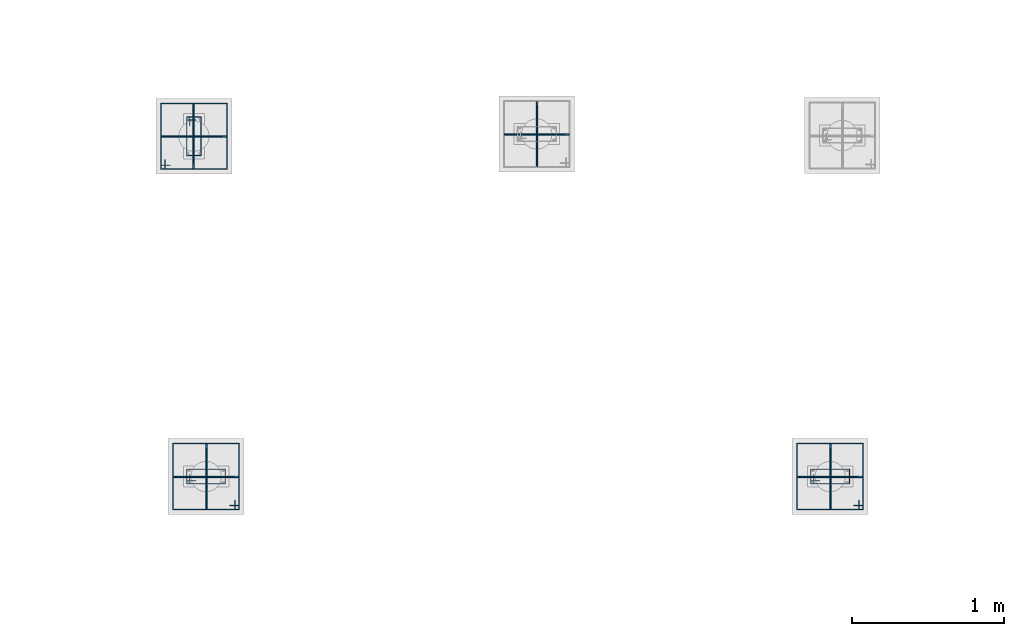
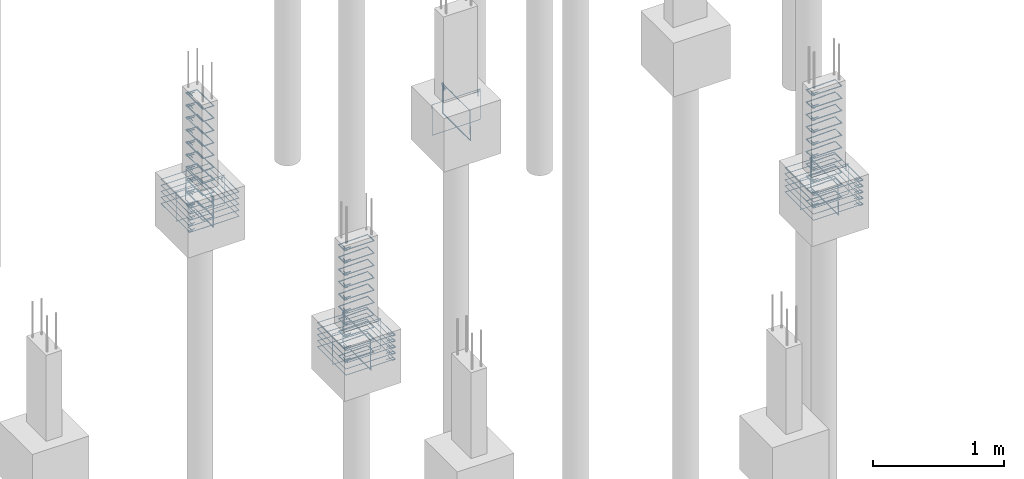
# One storey, part 81 of 119: 53 reinforcing bars.
"""IFC4 building model written with IfcOpenShell, lengths in centimetres."""

from ifc_helpers import new_model, entity, si_unit, derived_unit, frame, origin_with_axes, place, context, project, spatial, source, transform, mapped, element, save


model = new_model("IFC4")

# Units and contexts
model_context = context("Model", 3, precision=1e-05, world=origin_with_axes(), identifier="Body")
ifc_project = project(units=[si_unit("LENGTHUNIT", "METRE", prefix="CENTI"), si_unit("VOLUMEUNIT", "CUBIC_METRE"), si_unit("AREAUNIT", "SQUARE_METRE"), si_unit("POWERUNIT", "WATT"), si_unit("LUMINOUSFLUXUNIT", "LUMEN"), si_unit("ELECTRICCURRENTUNIT", "AMPERE"), si_unit("PRESSUREUNIT", "PASCAL", prefix="KILO"), si_unit("MASSUNIT", "GRAM", prefix="KILO"), si_unit("PLANEANGLEUNIT", "RADIAN"), derived_unit("VOLUMETRICFLOWRATEUNIT", [(si_unit("LENGTHUNIT", "METRE"), 3), (si_unit("TIMEUNIT", "SECOND"), -1)])], contexts=[model_context])

# Site, building, storey
site_placement = place(None, frame((-4000.0, 0.0, 0.0), z_axis=(0.0, 0.0, 1.0), x_axis=(1.0, 0.0, 0.0)))
site = spatial("IfcSite", under=ifc_project, at=site_placement, Name="PADRÃO")
building_placement = place(site_placement, frame((0.0, 0.0, -14.0)))
building = spatial("IfcBuilding", under=site, at=building_placement, Name="CRECHE PRÉ-ESCOLA TIPO 2")
storey_placement = place(building_placement, origin_with_axes())
storey = spatial("IfcBuildingStorey", under=building, at=storey_placement, Name="FUNDAÇÃO", CompositionType="ELEMENT", Elevation=-14.0)

# Reinforcing bars
shared_shape_1 = source(origin_with_axes(), model_context, "Body", "AdvancedSweptSolid", [
    entity("IfcSweptDiskSolid", entity("IfcCompositeCurve", [entity("IfcCompositeCurveSegment", "CONTINUOUS", True, entity("IfcPolyline", [entity("IfcCartesianPoint", [-15.12, -12.0, 0.0]), entity("IfcCartesianPoint", [-21.12, -12.0, 0.0])])), entity("IfcCompositeCurveSegment", "CONTINUOUS", True, entity("IfcPolyline", [entity("IfcCartesianPoint", [-21.12, -12.0, 0.0]), entity("IfcCartesianPoint", [-21.12, -14.0, 0.0])])), entity("IfcCompositeCurveSegment", "CONTINUOUS", True, entity("IfcPolyline", [entity("IfcCartesianPoint", [-21.12, -14.0, 0.0]), entity("IfcCartesianPoint", [21.12, -14.0, 0.0])])), entity("IfcCompositeCurveSegment", "CONTINUOUS", True, entity("IfcPolyline", [entity("IfcCartesianPoint", [21.12, -14.0, 0.0]), entity("IfcCartesianPoint", [21.12, 14.0, 0.5])])), entity("IfcCompositeCurveSegment", "CONTINUOUS", True, entity("IfcPolyline", [entity("IfcCartesianPoint", [21.12, 14.0, 0.5]), entity("IfcCartesianPoint", [-21.12, 14.0, 0.5])])), entity("IfcCompositeCurveSegment", "CONTINUOUS", True, entity("IfcPolyline", [entity("IfcCartesianPoint", [-21.12, 14.0, 0.5]), entity("IfcCartesianPoint", [-21.12, -14.0, 0.5])])), entity("IfcCompositeCurveSegment", "CONTINUOUS", True, entity("IfcPolyline", [entity("IfcCartesianPoint", [-21.12, -14.0, 0.5]), entity("IfcCartesianPoint", [-19.12, -14.0, 0.5])])), entity("IfcCompositeCurveSegment", "CONTINUOUS", True, entity("IfcPolyline", [entity("IfcCartesianPoint", [-19.12, -14.0, 0.5]), entity("IfcCartesianPoint", [-19.12, -8.0, 0.5])]))], False), 0.25),
])
reinforcing_bar_1_placement = place(storey_placement, frame((2749.74, 1253.51, -97.75), z_axis=(0.0, -1.0, 0.0), x_axis=(-1.0, 0.0, 0.0)))
element("IfcReinforcingBar", 1, at=reinforcing_bar_1_placement, inside=storey, Name="P111 - Blocos (estribos)", BarLength=0.0, CrossSectionArea=1.9634954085e-05, NominalDiameter=0.5, PredefinedType="MAIN", context=model_context, shape_type="MappedRepresentation", body=[
    mapped(shared_shape_1, transform((0.0, 0.0, 0.0), scale=1.0)),
])
shared_shape_2 = source(origin_with_axes(), model_context, "Body", "AdvancedSweptSolid", [
    entity("IfcSweptDiskSolid", entity("IfcCompositeCurve", [entity("IfcCompositeCurveSegment", "CONTINUOUS", True, entity("IfcPolyline", [entity("IfcCartesianPoint", [-15.12, -12.0, 0.0]), entity("IfcCartesianPoint", [-21.12, -12.0, 0.0])])), entity("IfcCompositeCurveSegment", "CONTINUOUS", True, entity("IfcPolyline", [entity("IfcCartesianPoint", [-21.12, -12.0, 0.0]), entity("IfcCartesianPoint", [-21.12, -14.0, 0.0])])), entity("IfcCompositeCurveSegment", "CONTINUOUS", True, entity("IfcPolyline", [entity("IfcCartesianPoint", [-21.12, -14.0, 0.0]), entity("IfcCartesianPoint", [21.12, -14.0, 0.0])])), entity("IfcCompositeCurveSegment", "CONTINUOUS", True, entity("IfcPolyline", [entity("IfcCartesianPoint", [21.12, -14.0, 0.0]), entity("IfcCartesianPoint", [21.12, 14.0, 0.5])])), entity("IfcCompositeCurveSegment", "CONTINUOUS", True, entity("IfcPolyline", [entity("IfcCartesianPoint", [21.12, 14.0, 0.5]), entity("IfcCartesianPoint", [-21.12, 14.0, 0.5])])), entity("IfcCompositeCurveSegment", "CONTINUOUS", True, entity("IfcPolyline", [entity("IfcCartesianPoint", [-21.12, 14.0, 0.5]), entity("IfcCartesianPoint", [-21.12, -14.0, 0.5])])), entity("IfcCompositeCurveSegment", "CONTINUOUS", True, entity("IfcPolyline", [entity("IfcCartesianPoint", [-21.12, -14.0, 0.5]), entity("IfcCartesianPoint", [-19.12, -14.0, 0.5])])), entity("IfcCompositeCurveSegment", "CONTINUOUS", True, entity("IfcPolyline", [entity("IfcCartesianPoint", [-19.12, -14.0, 0.5]), entity("IfcCartesianPoint", [-19.12, -8.0, 0.5])]))], False), 0.25),
])
reinforcing_bar_2_placement = place(storey_placement, frame((2749.74, 1253.51, -97.75), z_axis=(1.0, 0.0, 0.0), x_axis=(0.0, -1.0, 0.0)))
element("IfcReinforcingBar", 2, at=reinforcing_bar_2_placement, inside=storey, Name="P111 - Blocos (estribos)", BarLength=0.0, CrossSectionArea=1.9634954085e-05, NominalDiameter=0.5, PredefinedType="MAIN", context=model_context, shape_type="MappedRepresentation", body=[
    mapped(shared_shape_2, transform((0.0, 0.0, 0.0), scale=1.0)),
])
shared_shape_3 = source(origin_with_axes(), model_context, "Body", "AdvancedSweptSolid", [
    entity("IfcSweptDiskSolid", entity("IfcCompositeCurve", [entity("IfcCompositeCurveSegment", "CONTINUOUS", True, entity("IfcPolyline", [entity("IfcCartesianPoint", [4.25, 21.75, 0.0]), entity("IfcCartesianPoint", [4.25, 27.75, 0.0])])), entity("IfcCompositeCurveSegment", "CONTINUOUS", True, entity("IfcPolyline", [entity("IfcCartesianPoint", [4.25, 27.75, 0.0]), entity("IfcCartesianPoint", [2.25, 27.75, 0.0])])), entity("IfcCompositeCurveSegment", "CONTINUOUS", True, entity("IfcPolyline", [entity("IfcCartesianPoint", [2.25, 27.75, 0.0]), entity("IfcCartesianPoint", [2.25, 2.25, 0.0])])), entity("IfcCompositeCurveSegment", "CONTINUOUS", True, entity("IfcPolyline", [entity("IfcCartesianPoint", [2.25, 2.25, 0.0]), entity("IfcCartesianPoint", [11.75, 2.25, 0.0])])), entity("IfcCompositeCurveSegment", "CONTINUOUS", True, entity("IfcPolyline", [entity("IfcCartesianPoint", [11.75, 2.25, 0.0]), entity("IfcCartesianPoint", [11.75, 27.75, -0.5])])), entity("IfcCompositeCurveSegment", "CONTINUOUS", True, entity("IfcPolyline", [entity("IfcCartesianPoint", [11.75, 27.75, -0.5]), entity("IfcCartesianPoint", [2.25, 27.75, -0.5])])), entity("IfcCompositeCurveSegment", "CONTINUOUS", True, entity("IfcPolyline", [entity("IfcCartesianPoint", [2.25, 27.75, -0.5]), entity("IfcCartesianPoint", [2.25, 25.75, -0.5])])), entity("IfcCompositeCurveSegment", "CONTINUOUS", True, entity("IfcPolyline", [entity("IfcCartesianPoint", [2.25, 25.75, -0.5]), entity("IfcCartesianPoint", [8.25, 25.75, -0.5])]))], False), 0.25),
])
for number, where, z_axis, x_axis, name in (
    (3, (2516.5, 1237.08, -109.25), (0.0, 0.0, 1.0), (1.0, 0.0, 0.0), "P110 - Estribo"),
    (4, (2516.5, 1237.08, -40.25), (0.0, 0.0, 1.0), (1.0, 0.0, 0.0), "P110 - Estribo"),
    (5, (2516.5, 1237.08, -51.75), (0.0, 0.0, 1.0), (1.0, 0.0, 0.0), "P110 - Estribo"),
    (6, (2516.5, 1237.08, -63.25), (0.0, 0.0, 1.0), (1.0, 0.0, 0.0), "P110 - Estribo"),
    (7, (2516.5, 1237.08, -74.75), (0.0, 0.0, 1.0), (1.0, 0.0, 0.0), "P110 - Estribo"),
    (8, (2516.5, 1237.08, -86.25), (0.0, 0.0, 1.0), (1.0, 0.0, 0.0), "P110 - Estribo"),
    (9, (2516.5, 1237.08, -97.75), (0.0, 0.0, 1.0), (1.0, 0.0, 0.0), "P110 - Estribo"),
    (10, (2516.5, 1237.08, -28.75), (0.0, 0.0, 1.0), (1.0, 0.0, 0.0), "P110 - Estribo"),
    (11, (2516.5, 1237.08, -17.25), (0.0, 0.0, 1.0), (1.0, 0.0, 0.0), "P110 - Estribo"),
    (12, (2516.5, 1237.08, -5.75), (0.0, 0.0, 1.0), (1.0, 0.0, 0.0), "P110 - Estribo"),
):
    element("IfcReinforcingBar", number, at=place(storey_placement, frame(where, z_axis=z_axis, x_axis=x_axis)), inside=storey, Name=name, BarLength=0.0, CrossSectionArea=1.9634954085e-05, NominalDiameter=0.5, PredefinedType="MAIN", context=model_context, shape_type="MappedRepresentation", body=[
        mapped(shared_shape_3, transform((0.0, 0.0, 0.0), scale=1.0)),
    ])
shared_shape_4 = source(origin_with_axes(), model_context, "Body", "AdvancedSweptSolid", [
    entity("IfcSweptDiskSolid", entity("IfcCompositeCurve", [entity("IfcCompositeCurveSegment", "CONTINUOUS", True, entity("IfcPolyline", [entity("IfcCartesianPoint", [2508.075, 1232.915, 0.0]), entity("IfcCartesianPoint", [2501.815, 1232.915, 0.0])])), entity("IfcCompositeCurveSegment", "CONTINUOUS", True, entity("IfcPolyline", [entity("IfcCartesianPoint", [2501.815, 1232.915, 0.0]), entity("IfcCartesianPoint", [2501.815, 1230.395, 0.0])])), entity("IfcCompositeCurveSegment", "CONTINUOUS", True, entity("IfcPolyline", [entity("IfcCartesianPoint", [2501.815, 1230.395, 0.0]), entity("IfcCartesianPoint", [2545.185, 1230.395, 0.0])])), entity("IfcCompositeCurveSegment", "CONTINUOUS", True, entity("IfcPolyline", [entity("IfcCartesianPoint", [2545.185, 1230.395, 0.0]), entity("IfcCartesianPoint", [2545.185, 1273.765, 0.63])])), entity("IfcCompositeCurveSegment", "CONTINUOUS", True, entity("IfcPolyline", [entity("IfcCartesianPoint", [2545.185, 1273.765, 0.63]), entity("IfcCartesianPoint", [2501.815, 1273.765, 0.63])])), entity("IfcCompositeCurveSegment", "CONTINUOUS", True, entity("IfcPolyline", [entity("IfcCartesianPoint", [2501.815, 1273.765, 0.63]), entity("IfcCartesianPoint", [2501.815, 1230.395, 0.63])])), entity("IfcCompositeCurveSegment", "CONTINUOUS", True, entity("IfcPolyline", [entity("IfcCartesianPoint", [2501.815, 1230.395, 0.63]), entity("IfcCartesianPoint", [2504.335, 1230.395, 0.63])])), entity("IfcCompositeCurveSegment", "CONTINUOUS", True, entity("IfcPolyline", [entity("IfcCartesianPoint", [2504.335, 1230.395, 0.63]), entity("IfcCartesianPoint", [2504.335, 1236.655, 0.63])]))], False), 0.315),
])
for number, where, z_axis, x_axis, name in (
    (13, (0.0, 0.0, -92.225), (0.0, 0.0, 1.0), (1.0, 0.0, 0.0), "P110 - Blocos (estribos)"),
    (14, (0.0, 0.0, -86.575), (0.0, 0.0, 1.0), (1.0, 0.0, 0.0), "P110 - Blocos (estribos)"),
    (15, (0.0, 0.0, -109.175), (0.0, 0.0, 1.0), (1.0, 0.0, 0.0), "P110 - Blocos (estribos)"),
    (16, (0.0, 0.0, -103.525), (0.0, 0.0, 1.0), (1.0, 0.0, 0.0), "P110 - Blocos (estribos)"),
    (17, (0.0, 0.0, -97.875), (0.0, 0.0, 1.0), (1.0, 0.0, 0.0), "P110 - Blocos (estribos)"),
):
    element("IfcReinforcingBar", number, at=place(storey_placement, frame(where, z_axis=z_axis, x_axis=x_axis)), inside=storey, Name=name, BarLength=0.0, CrossSectionArea=3.1172453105e-05, NominalDiameter=0.63, PredefinedType="MAIN", context=model_context, shape_type="MappedRepresentation", body=[
        mapped(shared_shape_4, transform((0.0, 0.0, 0.0), scale=1.0)),
    ])
shared_shape_5 = source(origin_with_axes(), model_context, "Body", "AdvancedSweptSolid", [
    entity("IfcSweptDiskSolid", entity("IfcCompositeCurve", [entity("IfcCompositeCurveSegment", "CONTINUOUS", True, entity("IfcPolyline", [entity("IfcCartesianPoint", [-15.12, -12.0, 0.0]), entity("IfcCartesianPoint", [-21.12, -12.0, 0.0])])), entity("IfcCompositeCurveSegment", "CONTINUOUS", True, entity("IfcPolyline", [entity("IfcCartesianPoint", [-21.12, -12.0, 0.0]), entity("IfcCartesianPoint", [-21.12, -14.0, 0.0])])), entity("IfcCompositeCurveSegment", "CONTINUOUS", True, entity("IfcPolyline", [entity("IfcCartesianPoint", [-21.12, -14.0, 0.0]), entity("IfcCartesianPoint", [21.12, -14.0, 0.0])])), entity("IfcCompositeCurveSegment", "CONTINUOUS", True, entity("IfcPolyline", [entity("IfcCartesianPoint", [21.12, -14.0, 0.0]), entity("IfcCartesianPoint", [21.12, 14.0, 0.5])])), entity("IfcCompositeCurveSegment", "CONTINUOUS", True, entity("IfcPolyline", [entity("IfcCartesianPoint", [21.12, 14.0, 0.5]), entity("IfcCartesianPoint", [-21.12, 14.0, 0.5])])), entity("IfcCompositeCurveSegment", "CONTINUOUS", True, entity("IfcPolyline", [entity("IfcCartesianPoint", [-21.12, 14.0, 0.5]), entity("IfcCartesianPoint", [-21.12, -14.0, 0.5])])), entity("IfcCompositeCurveSegment", "CONTINUOUS", True, entity("IfcPolyline", [entity("IfcCartesianPoint", [-21.12, -14.0, 0.5]), entity("IfcCartesianPoint", [-19.12, -14.0, 0.5])])), entity("IfcCompositeCurveSegment", "CONTINUOUS", True, entity("IfcPolyline", [entity("IfcCartesianPoint", [-19.12, -14.0, 0.5]), entity("IfcCartesianPoint", [-19.12, -8.0, 0.5])]))], False), 0.25),
])
reinforcing_bar_3_placement = place(storey_placement, frame((2523.5, 1252.08, -97.75), z_axis=(-1.0, 0.0, 0.0), x_axis=(0.0, 1.0, 0.0)))
element("IfcReinforcingBar", 18, at=reinforcing_bar_3_placement, inside=storey, Name="P110 - Blocos (estribos)", BarLength=0.0, CrossSectionArea=1.9634954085e-05, NominalDiameter=0.5, PredefinedType="MAIN", context=model_context, shape_type="MappedRepresentation", body=[
    mapped(shared_shape_5, transform((0.0, 0.0, 0.0), scale=1.0)),
])
shared_shape_6 = source(origin_with_axes(), model_context, "Body", "AdvancedSweptSolid", [
    entity("IfcSweptDiskSolid", entity("IfcCompositeCurve", [entity("IfcCompositeCurveSegment", "CONTINUOUS", True, entity("IfcPolyline", [entity("IfcCartesianPoint", [-15.12, -12.0, 0.0]), entity("IfcCartesianPoint", [-21.12, -12.0, 0.0])])), entity("IfcCompositeCurveSegment", "CONTINUOUS", True, entity("IfcPolyline", [entity("IfcCartesianPoint", [-21.12, -12.0, 0.0]), entity("IfcCartesianPoint", [-21.12, -14.0, 0.0])])), entity("IfcCompositeCurveSegment", "CONTINUOUS", True, entity("IfcPolyline", [entity("IfcCartesianPoint", [-21.12, -14.0, 0.0]), entity("IfcCartesianPoint", [21.12, -14.0, 0.0])])), entity("IfcCompositeCurveSegment", "CONTINUOUS", True, entity("IfcPolyline", [entity("IfcCartesianPoint", [21.12, -14.0, 0.0]), entity("IfcCartesianPoint", [21.12, 14.0, 0.5])])), entity("IfcCompositeCurveSegment", "CONTINUOUS", True, entity("IfcPolyline", [entity("IfcCartesianPoint", [21.12, 14.0, 0.5]), entity("IfcCartesianPoint", [-21.12, 14.0, 0.5])])), entity("IfcCompositeCurveSegment", "CONTINUOUS", True, entity("IfcPolyline", [entity("IfcCartesianPoint", [-21.12, 14.0, 0.5]), entity("IfcCartesianPoint", [-21.12, -14.0, 0.5])])), entity("IfcCompositeCurveSegment", "CONTINUOUS", True, entity("IfcPolyline", [entity("IfcCartesianPoint", [-21.12, -14.0, 0.5]), entity("IfcCartesianPoint", [-19.12, -14.0, 0.5])])), entity("IfcCompositeCurveSegment", "CONTINUOUS", True, entity("IfcPolyline", [entity("IfcCartesianPoint", [-19.12, -14.0, 0.5]), entity("IfcCartesianPoint", [-19.12, -8.0, 0.5])]))], False), 0.25),
])
reinforcing_bar_4_placement = place(storey_placement, frame((2523.5, 1252.08, -97.75), z_axis=(0.0, -1.0, 0.0), x_axis=(-1.0, 0.0, 0.0)))
element("IfcReinforcingBar", 19, at=reinforcing_bar_4_placement, inside=storey, Name="P110 - Blocos (estribos)", BarLength=0.0, CrossSectionArea=1.9634954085e-05, NominalDiameter=0.5, PredefinedType="MAIN", context=model_context, shape_type="MappedRepresentation", body=[
    mapped(shared_shape_6, transform((0.0, 0.0, 0.0), scale=1.0)),
])
shared_shape_7 = source(origin_with_axes(), model_context, "Body", "AdvancedSweptSolid", [
    entity("IfcSweptDiskSolid", entity("IfcCompositeCurve", [entity("IfcCompositeCurveSegment", "CONTINUOUS", True, entity("IfcPolyline", [entity("IfcCartesianPoint", [4.25, 21.75, 0.0]), entity("IfcCartesianPoint", [4.25, 27.75, 0.0])])), entity("IfcCompositeCurveSegment", "CONTINUOUS", True, entity("IfcPolyline", [entity("IfcCartesianPoint", [4.25, 27.75, 0.0]), entity("IfcCartesianPoint", [2.25, 27.75, 0.0])])), entity("IfcCompositeCurveSegment", "CONTINUOUS", True, entity("IfcPolyline", [entity("IfcCartesianPoint", [2.25, 27.75, 0.0]), entity("IfcCartesianPoint", [2.25, 2.25, 0.0])])), entity("IfcCompositeCurveSegment", "CONTINUOUS", True, entity("IfcPolyline", [entity("IfcCartesianPoint", [2.25, 2.25, 0.0]), entity("IfcCartesianPoint", [11.75, 2.25, 0.0])])), entity("IfcCompositeCurveSegment", "CONTINUOUS", True, entity("IfcPolyline", [entity("IfcCartesianPoint", [11.75, 2.25, 0.0]), entity("IfcCartesianPoint", [11.75, 27.75, -0.5])])), entity("IfcCompositeCurveSegment", "CONTINUOUS", True, entity("IfcPolyline", [entity("IfcCartesianPoint", [11.75, 27.75, -0.5]), entity("IfcCartesianPoint", [2.25, 27.75, -0.5])])), entity("IfcCompositeCurveSegment", "CONTINUOUS", True, entity("IfcPolyline", [entity("IfcCartesianPoint", [2.25, 27.75, -0.5]), entity("IfcCartesianPoint", [2.25, 25.75, -0.5])])), entity("IfcCompositeCurveSegment", "CONTINUOUS", True, entity("IfcPolyline", [entity("IfcCartesianPoint", [2.25, 25.75, -0.5]), entity("IfcCartesianPoint", [8.25, 25.75, -0.5])]))], False), 0.25),
])
for number, where, z_axis, x_axis, name in (
    (20, (2546.5, 1020.52, -17.25), (0.0, 0.0, 1.0), (0.0, 1.0, 0.0), "P122 - Estribo"),
    (21, (2546.5, 1020.52, -28.75), (0.0, 0.0, 1.0), (0.0, 1.0, 0.0), "P122 - Estribo"),
    (22, (2546.5, 1020.52, -5.75), (0.0, 0.0, 1.0), (0.0, 1.0, 0.0), "P122 - Estribo"),
    (23, (2546.5, 1020.52, -63.25), (0.0, 0.0, 1.0), (0.0, 1.0, 0.0), "P122 - Estribo"),
    (24, (2546.5, 1020.52, -109.25), (0.0, 0.0, 1.0), (0.0, 1.0, 0.0), "P122 - Estribo"),
    (25, (2546.5, 1020.52, -97.75), (0.0, 0.0, 1.0), (0.0, 1.0, 0.0), "P122 - Estribo"),
    (26, (2546.5, 1020.52, -86.25), (0.0, 0.0, 1.0), (0.0, 1.0, 0.0), "P122 - Estribo"),
    (27, (2546.5, 1020.52, -74.75), (0.0, 0.0, 1.0), (0.0, 1.0, 0.0), "P122 - Estribo"),
    (28, (2546.5, 1020.52, -51.75), (0.0, 0.0, 1.0), (0.0, 1.0, 0.0), "P122 - Estribo"),
    (29, (2546.5, 1020.52, -40.25), (0.0, 0.0, 1.0), (0.0, 1.0, 0.0), "P122 - Estribo"),
):
    element("IfcReinforcingBar", number, at=place(storey_placement, frame(where, z_axis=z_axis, x_axis=x_axis)), inside=storey, Name=name, BarLength=0.0, CrossSectionArea=1.9634954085e-05, NominalDiameter=0.5, PredefinedType="MAIN", context=model_context, shape_type="MappedRepresentation", body=[
        mapped(shared_shape_7, transform((0.0, 0.0, 0.0), scale=1.0)),
    ])
shared_shape_8 = source(origin_with_axes(), model_context, "Body", "AdvancedSweptSolid", [
    entity("IfcSweptDiskSolid", entity("IfcCompositeCurve", [entity("IfcCompositeCurveSegment", "CONTINUOUS", True, entity("IfcPolyline", [entity("IfcCartesianPoint", [2550.665, 1012.095, 0.0]), entity("IfcCartesianPoint", [2550.665, 1005.835, 0.0])])), entity("IfcCompositeCurveSegment", "CONTINUOUS", True, entity("IfcPolyline", [entity("IfcCartesianPoint", [2550.665, 1005.835, 0.0]), entity("IfcCartesianPoint", [2553.185, 1005.835, 0.0])])), entity("IfcCompositeCurveSegment", "CONTINUOUS", True, entity("IfcPolyline", [entity("IfcCartesianPoint", [2553.185, 1005.835, 0.0]), entity("IfcCartesianPoint", [2553.185, 1049.205, 0.0])])), entity("IfcCompositeCurveSegment", "CONTINUOUS", True, entity("IfcPolyline", [entity("IfcCartesianPoint", [2553.185, 1049.205, 0.0]), entity("IfcCartesianPoint", [2509.815, 1049.205, 0.63])])), entity("IfcCompositeCurveSegment", "CONTINUOUS", True, entity("IfcPolyline", [entity("IfcCartesianPoint", [2509.815, 1049.205, 0.63]), entity("IfcCartesianPoint", [2509.815, 1005.835, 0.63])])), entity("IfcCompositeCurveSegment", "CONTINUOUS", True, entity("IfcPolyline", [entity("IfcCartesianPoint", [2509.815, 1005.835, 0.63]), entity("IfcCartesianPoint", [2553.185, 1005.835, 0.63])])), entity("IfcCompositeCurveSegment", "CONTINUOUS", True, entity("IfcPolyline", [entity("IfcCartesianPoint", [2553.185, 1005.835, 0.63]), entity("IfcCartesianPoint", [2553.185, 1008.355, 0.63])])), entity("IfcCompositeCurveSegment", "CONTINUOUS", True, entity("IfcPolyline", [entity("IfcCartesianPoint", [2553.185, 1008.355, 0.63]), entity("IfcCartesianPoint", [2546.925, 1008.355, 0.63])]))], False), 0.315),
])
for number, where, z_axis, x_axis, name in (
    (30, (0.0, 0.0, -86.575), (0.0, 0.0, 1.0), (1.0, 0.0, 0.0), "P122 - Blocos (estribos)"),
    (31, (0.0, 0.0, -97.875), (0.0, 0.0, 1.0), (1.0, 0.0, 0.0), "P122 - Blocos (estribos)"),
    (32, (0.0, 0.0, -109.175), (0.0, 0.0, 1.0), (1.0, 0.0, 0.0), "P122 - Blocos (estribos)"),
    (33, (0.0, 0.0, -103.525), (0.0, 0.0, 1.0), (1.0, 0.0, 0.0), "P122 - Blocos (estribos)"),
    (34, (0.0, 0.0, -92.225), (0.0, 0.0, 1.0), (1.0, 0.0, 0.0), "P122 - Blocos (estribos)"),
):
    element("IfcReinforcingBar", number, at=place(storey_placement, frame(where, z_axis=z_axis, x_axis=x_axis)), inside=storey, Name=name, BarLength=0.0, CrossSectionArea=3.1172453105e-05, NominalDiameter=0.63, PredefinedType="MAIN", context=model_context, shape_type="MappedRepresentation", body=[
        mapped(shared_shape_8, transform((0.0, 0.0, 0.0), scale=1.0)),
    ])
shared_shape_9 = source(origin_with_axes(), model_context, "Body", "AdvancedSweptSolid", [
    entity("IfcSweptDiskSolid", entity("IfcCompositeCurve", [entity("IfcCompositeCurveSegment", "CONTINUOUS", True, entity("IfcPolyline", [entity("IfcCartesianPoint", [-15.12, -12.0, 0.0]), entity("IfcCartesianPoint", [-21.12, -12.0, 0.0])])), entity("IfcCompositeCurveSegment", "CONTINUOUS", True, entity("IfcPolyline", [entity("IfcCartesianPoint", [-21.12, -12.0, 0.0]), entity("IfcCartesianPoint", [-21.12, -14.0, 0.0])])), entity("IfcCompositeCurveSegment", "CONTINUOUS", True, entity("IfcPolyline", [entity("IfcCartesianPoint", [-21.12, -14.0, 0.0]), entity("IfcCartesianPoint", [21.12, -14.0, 0.0])])), entity("IfcCompositeCurveSegment", "CONTINUOUS", True, entity("IfcPolyline", [entity("IfcCartesianPoint", [21.12, -14.0, 0.0]), entity("IfcCartesianPoint", [21.12, 14.0, 0.5])])), entity("IfcCompositeCurveSegment", "CONTINUOUS", True, entity("IfcPolyline", [entity("IfcCartesianPoint", [21.12, 14.0, 0.5]), entity("IfcCartesianPoint", [-21.12, 14.0, 0.5])])), entity("IfcCompositeCurveSegment", "CONTINUOUS", True, entity("IfcPolyline", [entity("IfcCartesianPoint", [-21.12, 14.0, 0.5]), entity("IfcCartesianPoint", [-21.12, -14.0, 0.5])])), entity("IfcCompositeCurveSegment", "CONTINUOUS", True, entity("IfcPolyline", [entity("IfcCartesianPoint", [-21.12, -14.0, 0.5]), entity("IfcCartesianPoint", [-19.12, -14.0, 0.5])])), entity("IfcCompositeCurveSegment", "CONTINUOUS", True, entity("IfcPolyline", [entity("IfcCartesianPoint", [-19.12, -14.0, 0.5]), entity("IfcCartesianPoint", [-19.12, -8.0, 0.5])]))], False), 0.25),
])
reinforcing_bar_5_placement = place(storey_placement, frame((2531.5, 1027.52, -97.75), z_axis=(0.0, -1.0, 0.0), x_axis=(-1.0, 0.0, 0.0)))
element("IfcReinforcingBar", 35, at=reinforcing_bar_5_placement, inside=storey, Name="P122 - Blocos (estribos)", BarLength=0.0, CrossSectionArea=1.9634954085e-05, NominalDiameter=0.5, PredefinedType="MAIN", context=model_context, shape_type="MappedRepresentation", body=[
    mapped(shared_shape_9, transform((0.0, 0.0, 0.0), scale=1.0)),
])
shared_shape_10 = source(origin_with_axes(), model_context, "Body", "AdvancedSweptSolid", [
    entity("IfcSweptDiskSolid", entity("IfcCompositeCurve", [entity("IfcCompositeCurveSegment", "CONTINUOUS", True, entity("IfcPolyline", [entity("IfcCartesianPoint", [-15.12, -12.0, 0.0]), entity("IfcCartesianPoint", [-21.12, -12.0, 0.0])])), entity("IfcCompositeCurveSegment", "CONTINUOUS", True, entity("IfcPolyline", [entity("IfcCartesianPoint", [-21.12, -12.0, 0.0]), entity("IfcCartesianPoint", [-21.12, -14.0, 0.0])])), entity("IfcCompositeCurveSegment", "CONTINUOUS", True, entity("IfcPolyline", [entity("IfcCartesianPoint", [-21.12, -14.0, 0.0]), entity("IfcCartesianPoint", [21.12, -14.0, 0.0])])), entity("IfcCompositeCurveSegment", "CONTINUOUS", True, entity("IfcPolyline", [entity("IfcCartesianPoint", [21.12, -14.0, 0.0]), entity("IfcCartesianPoint", [21.12, 14.0, 0.5])])), entity("IfcCompositeCurveSegment", "CONTINUOUS", True, entity("IfcPolyline", [entity("IfcCartesianPoint", [21.12, 14.0, 0.5]), entity("IfcCartesianPoint", [-21.12, 14.0, 0.5])])), entity("IfcCompositeCurveSegment", "CONTINUOUS", True, entity("IfcPolyline", [entity("IfcCartesianPoint", [-21.12, 14.0, 0.5]), entity("IfcCartesianPoint", [-21.12, -14.0, 0.5])])), entity("IfcCompositeCurveSegment", "CONTINUOUS", True, entity("IfcPolyline", [entity("IfcCartesianPoint", [-21.12, -14.0, 0.5]), entity("IfcCartesianPoint", [-19.12, -14.0, 0.5])])), entity("IfcCompositeCurveSegment", "CONTINUOUS", True, entity("IfcPolyline", [entity("IfcCartesianPoint", [-19.12, -14.0, 0.5]), entity("IfcCartesianPoint", [-19.12, -8.0, 0.5])]))], False), 0.25),
])
reinforcing_bar_6_placement = place(storey_placement, frame((2531.5, 1027.52, -97.75), z_axis=(1.0, 0.0, 0.0), x_axis=(0.0, -1.0, 0.0)))
element("IfcReinforcingBar", 36, at=reinforcing_bar_6_placement, inside=storey, Name="P122 - Blocos (estribos)", BarLength=0.0, CrossSectionArea=1.9634954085e-05, NominalDiameter=0.5, PredefinedType="MAIN", context=model_context, shape_type="MappedRepresentation", body=[
    mapped(shared_shape_10, transform((0.0, 0.0, 0.0), scale=1.0)),
])
shared_shape_11 = source(origin_with_axes(), model_context, "Body", "AdvancedSweptSolid", [
    entity("IfcSweptDiskSolid", entity("IfcCompositeCurve", [entity("IfcCompositeCurveSegment", "CONTINUOUS", True, entity("IfcPolyline", [entity("IfcCartesianPoint", [4.25, 21.75, 0.0]), entity("IfcCartesianPoint", [4.25, 27.75, 0.0])])), entity("IfcCompositeCurveSegment", "CONTINUOUS", True, entity("IfcPolyline", [entity("IfcCartesianPoint", [4.25, 27.75, 0.0]), entity("IfcCartesianPoint", [2.25, 27.75, 0.0])])), entity("IfcCompositeCurveSegment", "CONTINUOUS", True, entity("IfcPolyline", [entity("IfcCartesianPoint", [2.25, 27.75, 0.0]), entity("IfcCartesianPoint", [2.25, 2.25, 0.0])])), entity("IfcCompositeCurveSegment", "CONTINUOUS", True, entity("IfcPolyline", [entity("IfcCartesianPoint", [2.25, 2.25, 0.0]), entity("IfcCartesianPoint", [11.75, 2.25, 0.0])])), entity("IfcCompositeCurveSegment", "CONTINUOUS", True, entity("IfcPolyline", [entity("IfcCartesianPoint", [11.75, 2.25, 0.0]), entity("IfcCartesianPoint", [11.75, 27.75, -0.5])])), entity("IfcCompositeCurveSegment", "CONTINUOUS", True, entity("IfcPolyline", [entity("IfcCartesianPoint", [11.75, 27.75, -0.5]), entity("IfcCartesianPoint", [2.25, 27.75, -0.5])])), entity("IfcCompositeCurveSegment", "CONTINUOUS", True, entity("IfcPolyline", [entity("IfcCartesianPoint", [2.25, 27.75, -0.5]), entity("IfcCartesianPoint", [2.25, 25.75, -0.5])])), entity("IfcCompositeCurveSegment", "CONTINUOUS", True, entity("IfcPolyline", [entity("IfcCartesianPoint", [2.25, 25.75, -0.5]), entity("IfcCartesianPoint", [8.25, 25.75, -0.5])]))], False), 0.25),
])
for number, where, z_axis, x_axis, name in (
    (37, (2958.24, 1020.52, -97.75), (0.0, 0.0, 1.0), (0.0, 1.0, 0.0), "P123 - Estribo"),
    (38, (2958.24, 1020.52, -109.25), (0.0, 0.0, 1.0), (0.0, 1.0, 0.0), "P123 - Estribo"),
    (39, (2958.24, 1020.52, -5.75), (0.0, 0.0, 1.0), (0.0, 1.0, 0.0), "P123 - Estribo"),
    (40, (2958.24, 1020.52, -17.25), (0.0, 0.0, 1.0), (0.0, 1.0, 0.0), "P123 - Estribo"),
    (41, (2958.24, 1020.52, -28.75), (0.0, 0.0, 1.0), (0.0, 1.0, 0.0), "P123 - Estribo"),
    (42, (2958.24, 1020.52, -40.25), (0.0, 0.0, 1.0), (0.0, 1.0, 0.0), "P123 - Estribo"),
    (43, (2958.24, 1020.52, -51.75), (0.0, 0.0, 1.0), (0.0, 1.0, 0.0), "P123 - Estribo"),
    (44, (2958.24, 1020.52, -63.25), (0.0, 0.0, 1.0), (0.0, 1.0, 0.0), "P123 - Estribo"),
    (45, (2958.24, 1020.52, -74.75), (0.0, 0.0, 1.0), (0.0, 1.0, 0.0), "P123 - Estribo"),
    (46, (2958.24, 1020.52, -86.25), (0.0, 0.0, 1.0), (0.0, 1.0, 0.0), "P123 - Estribo"),
):
    element("IfcReinforcingBar", number, at=place(storey_placement, frame(where, z_axis=z_axis, x_axis=x_axis)), inside=storey, Name=name, BarLength=0.0, CrossSectionArea=1.9634954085e-05, NominalDiameter=0.5, PredefinedType="MAIN", context=model_context, shape_type="MappedRepresentation", body=[
        mapped(shared_shape_11, transform((0.0, 0.0, 0.0), scale=1.0)),
    ])
shared_shape_12 = source(origin_with_axes(), model_context, "Body", "AdvancedSweptSolid", [
    entity("IfcSweptDiskSolid", entity("IfcCompositeCurve", [entity("IfcCompositeCurveSegment", "CONTINUOUS", True, entity("IfcPolyline", [entity("IfcCartesianPoint", [2962.405, 1012.095, 0.0]), entity("IfcCartesianPoint", [2962.405, 1005.835, 0.0])])), entity("IfcCompositeCurveSegment", "CONTINUOUS", True, entity("IfcPolyline", [entity("IfcCartesianPoint", [2962.405, 1005.835, 0.0]), entity("IfcCartesianPoint", [2964.925, 1005.835, 0.0])])), entity("IfcCompositeCurveSegment", "CONTINUOUS", True, entity("IfcPolyline", [entity("IfcCartesianPoint", [2964.925, 1005.835, 0.0]), entity("IfcCartesianPoint", [2964.925, 1049.205, 0.0])])), entity("IfcCompositeCurveSegment", "CONTINUOUS", True, entity("IfcPolyline", [entity("IfcCartesianPoint", [2964.925, 1049.205, 0.0]), entity("IfcCartesianPoint", [2921.555, 1049.205, 0.63])])), entity("IfcCompositeCurveSegment", "CONTINUOUS", True, entity("IfcPolyline", [entity("IfcCartesianPoint", [2921.555, 1049.205, 0.63]), entity("IfcCartesianPoint", [2921.555, 1005.835, 0.63])])), entity("IfcCompositeCurveSegment", "CONTINUOUS", True, entity("IfcPolyline", [entity("IfcCartesianPoint", [2921.555, 1005.835, 0.63]), entity("IfcCartesianPoint", [2964.925, 1005.835, 0.63])])), entity("IfcCompositeCurveSegment", "CONTINUOUS", True, entity("IfcPolyline", [entity("IfcCartesianPoint", [2964.925, 1005.835, 0.63]), entity("IfcCartesianPoint", [2964.925, 1008.355, 0.63])])), entity("IfcCompositeCurveSegment", "CONTINUOUS", True, entity("IfcPolyline", [entity("IfcCartesianPoint", [2964.925, 1008.355, 0.63]), entity("IfcCartesianPoint", [2958.665, 1008.355, 0.63])]))], False), 0.315),
])
for number, where, z_axis, x_axis, name in (
    (47, (0.0, 0.0, -109.175), (0.0, 0.0, 1.0), (1.0, 0.0, 0.0), "P123 - Blocos (estribos)"),
    (48, (0.0, 0.0, -103.525), (0.0, 0.0, 1.0), (1.0, 0.0, 0.0), "P123 - Blocos (estribos)"),
    (49, (0.0, 0.0, -97.875), (0.0, 0.0, 1.0), (1.0, 0.0, 0.0), "P123 - Blocos (estribos)"),
    (50, (0.0, 0.0, -92.225), (0.0, 0.0, 1.0), (1.0, 0.0, 0.0), "P123 - Blocos (estribos)"),
    (51, (0.0, 0.0, -86.575), (0.0, 0.0, 1.0), (1.0, 0.0, 0.0), "P123 - Blocos (estribos)"),
):
    element("IfcReinforcingBar", number, at=place(storey_placement, frame(where, z_axis=z_axis, x_axis=x_axis)), inside=storey, Name=name, BarLength=0.0, CrossSectionArea=3.1172453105e-05, NominalDiameter=0.63, PredefinedType="MAIN", context=model_context, shape_type="MappedRepresentation", body=[
        mapped(shared_shape_12, transform((0.0, 0.0, 0.0), scale=1.0)),
    ])
shared_shape_13 = source(origin_with_axes(), model_context, "Body", "AdvancedSweptSolid", [
    entity("IfcSweptDiskSolid", entity("IfcCompositeCurve", [entity("IfcCompositeCurveSegment", "CONTINUOUS", True, entity("IfcPolyline", [entity("IfcCartesianPoint", [-15.12, -12.0, 0.0]), entity("IfcCartesianPoint", [-21.12, -12.0, 0.0])])), entity("IfcCompositeCurveSegment", "CONTINUOUS", True, entity("IfcPolyline", [entity("IfcCartesianPoint", [-21.12, -12.0, 0.0]), entity("IfcCartesianPoint", [-21.12, -14.0, 0.0])])), entity("IfcCompositeCurveSegment", "CONTINUOUS", True, entity("IfcPolyline", [entity("IfcCartesianPoint", [-21.12, -14.0, 0.0]), entity("IfcCartesianPoint", [21.12, -14.0, 0.0])])), entity("IfcCompositeCurveSegment", "CONTINUOUS", True, entity("IfcPolyline", [entity("IfcCartesianPoint", [21.12, -14.0, 0.0]), entity("IfcCartesianPoint", [21.12, 14.0, 0.5])])), entity("IfcCompositeCurveSegment", "CONTINUOUS", True, entity("IfcPolyline", [entity("IfcCartesianPoint", [21.12, 14.0, 0.5]), entity("IfcCartesianPoint", [-21.12, 14.0, 0.5])])), entity("IfcCompositeCurveSegment", "CONTINUOUS", True, entity("IfcPolyline", [entity("IfcCartesianPoint", [-21.12, 14.0, 0.5]), entity("IfcCartesianPoint", [-21.12, -14.0, 0.5])])), entity("IfcCompositeCurveSegment", "CONTINUOUS", True, entity("IfcPolyline", [entity("IfcCartesianPoint", [-21.12, -14.0, 0.5]), entity("IfcCartesianPoint", [-19.12, -14.0, 0.5])])), entity("IfcCompositeCurveSegment", "CONTINUOUS", True, entity("IfcPolyline", [entity("IfcCartesianPoint", [-19.12, -14.0, 0.5]), entity("IfcCartesianPoint", [-19.12, -8.0, 0.5])]))], False), 0.25),
])
reinforcing_bar_7_placement = place(storey_placement, frame((2943.24, 1027.52, -97.75), z_axis=(0.0, -1.0, 0.0), x_axis=(-1.0, 0.0, 0.0)))
element("IfcReinforcingBar", 52, at=reinforcing_bar_7_placement, inside=storey, Name="P123 - Blocos (estribos)", BarLength=0.0, CrossSectionArea=1.9634954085e-05, NominalDiameter=0.5, PredefinedType="MAIN", context=model_context, shape_type="MappedRepresentation", body=[
    mapped(shared_shape_13, transform((0.0, 0.0, 0.0), scale=1.0)),
])
shared_shape_14 = source(origin_with_axes(), model_context, "Body", "AdvancedSweptSolid", [
    entity("IfcSweptDiskSolid", entity("IfcCompositeCurve", [entity("IfcCompositeCurveSegment", "CONTINUOUS", True, entity("IfcPolyline", [entity("IfcCartesianPoint", [-15.12, -12.0, 0.0]), entity("IfcCartesianPoint", [-21.12, -12.0, 0.0])])), entity("IfcCompositeCurveSegment", "CONTINUOUS", True, entity("IfcPolyline", [entity("IfcCartesianPoint", [-21.12, -12.0, 0.0]), entity("IfcCartesianPoint", [-21.12, -14.0, 0.0])])), entity("IfcCompositeCurveSegment", "CONTINUOUS", True, entity("IfcPolyline", [entity("IfcCartesianPoint", [-21.12, -14.0, 0.0]), entity("IfcCartesianPoint", [21.12, -14.0, 0.0])])), entity("IfcCompositeCurveSegment", "CONTINUOUS", True, entity("IfcPolyline", [entity("IfcCartesianPoint", [21.12, -14.0, 0.0]), entity("IfcCartesianPoint", [21.12, 14.0, 0.5])])), entity("IfcCompositeCurveSegment", "CONTINUOUS", True, entity("IfcPolyline", [entity("IfcCartesianPoint", [21.12, 14.0, 0.5]), entity("IfcCartesianPoint", [-21.12, 14.0, 0.5])])), entity("IfcCompositeCurveSegment", "CONTINUOUS", True, entity("IfcPolyline", [entity("IfcCartesianPoint", [-21.12, 14.0, 0.5]), entity("IfcCartesianPoint", [-21.12, -14.0, 0.5])])), entity("IfcCompositeCurveSegment", "CONTINUOUS", True, entity("IfcPolyline", [entity("IfcCartesianPoint", [-21.12, -14.0, 0.5]), entity("IfcCartesianPoint", [-19.12, -14.0, 0.5])])), entity("IfcCompositeCurveSegment", "CONTINUOUS", True, entity("IfcPolyline", [entity("IfcCartesianPoint", [-19.12, -14.0, 0.5]), entity("IfcCartesianPoint", [-19.12, -8.0, 0.5])]))], False), 0.25),
])
reinforcing_bar_8_placement = place(storey_placement, frame((2943.24, 1027.52, -97.75), z_axis=(1.0, 0.0, 0.0), x_axis=(0.0, -1.0, 0.0)))
element("IfcReinforcingBar", 53, at=reinforcing_bar_8_placement, inside=storey, Name="P123 - Blocos (estribos)", BarLength=0.0, CrossSectionArea=1.9634954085e-05, NominalDiameter=0.5, PredefinedType="MAIN", context=model_context, shape_type="MappedRepresentation", body=[
    mapped(shared_shape_14, transform((0.0, 0.0, 0.0), scale=1.0)),
])

save(model, "model.ifc")
